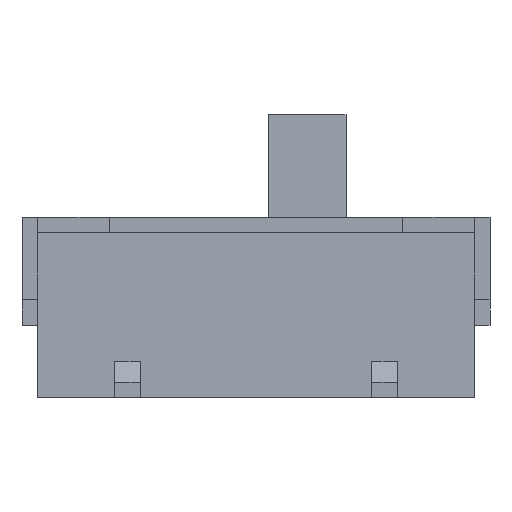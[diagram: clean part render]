
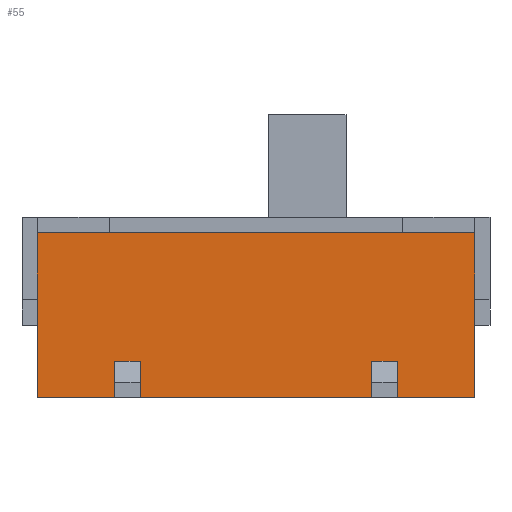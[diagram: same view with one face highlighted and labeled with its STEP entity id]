
A CAD part, left-side view. The second image highlights one B-rep face of the part: STEP entity #55.
In plain terms, the highlighted planar face has unit normal (-1, 0, 0).
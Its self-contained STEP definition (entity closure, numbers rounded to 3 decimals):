
#55 = ADVANCED_FACE('',(#56),#90,.F.);
#56 = FACE_BOUND('',#57,.F.);
#57 = EDGE_LOOP('',(#58,#68,#76,#84));
#58 = ORIENTED_EDGE('',*,*,#59,.T.);
#59 = EDGE_CURVE('',#60,#62,#64,.T.);
#60 = VERTEX_POINT('',#61);
#61 = CARTESIAN_POINT('',(-1.75,4.25,0.));
#62 = VERTEX_POINT('',#63);
#63 = CARTESIAN_POINT('',(-1.75,4.25,3.2));
#64 = LINE('',#65,#66);
#65 = CARTESIAN_POINT('',(-1.75,4.25,0.));
#66 = VECTOR('',#67,1.);
#67 = DIRECTION('',(0.,0.,1.));
#68 = ORIENTED_EDGE('',*,*,#69,.T.);
#69 = EDGE_CURVE('',#62,#70,#72,.T.);
#70 = VERTEX_POINT('',#71);
#71 = CARTESIAN_POINT('',(-1.75,-4.25,3.2));
#72 = LINE('',#73,#74);
#73 = CARTESIAN_POINT('',(-1.75,4.25,3.2));
#74 = VECTOR('',#75,1.);
#75 = DIRECTION('',(0.,-1.,0.));
#76 = ORIENTED_EDGE('',*,*,#77,.F.);
#77 = EDGE_CURVE('',#78,#70,#80,.T.);
#78 = VERTEX_POINT('',#79);
#79 = CARTESIAN_POINT('',(-1.75,-4.25,0.));
#80 = LINE('',#81,#82);
#81 = CARTESIAN_POINT('',(-1.75,-4.25,0.));
#82 = VECTOR('',#83,1.);
#83 = DIRECTION('',(0.,0.,1.));
#84 = ORIENTED_EDGE('',*,*,#85,.F.);
#85 = EDGE_CURVE('',#60,#78,#86,.T.);
#86 = LINE('',#87,#88);
#87 = CARTESIAN_POINT('',(-1.75,4.25,0.));
#88 = VECTOR('',#89,1.);
#89 = DIRECTION('',(0.,-1.,0.));
#90 = PLANE('',#91);
#91 = AXIS2_PLACEMENT_3D('',#92,#93,#94);
#92 = CARTESIAN_POINT('',(-1.75,4.25,0.));
#93 = DIRECTION('',(1.,0.,0.));
#94 = DIRECTION('',(0.,-1.,0.));
